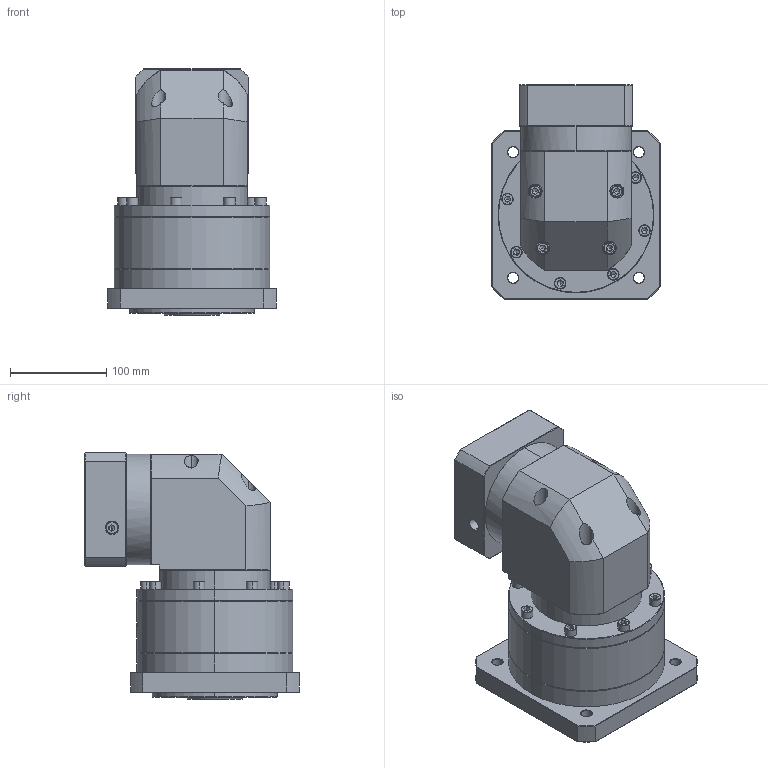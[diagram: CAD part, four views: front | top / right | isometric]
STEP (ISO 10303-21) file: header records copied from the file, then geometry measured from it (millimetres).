
FILE_DESCRIPTION (( 'STEP AP214' ), '1' );
FILE_NAME ('ZFR160A-K35-L2-P2-22-95-115-M8.step', '2023-09-03T09:44:04', ( '' ), ( '' ), 'SwSTEP 2.0', 'SolidWorks 2016', '' );
FILE_SCHEMA (( 'AUTOMOTIVE_DESIGN' ));
Length unit declared in the file: millimetre
Products named in the file (1): ZFR160A-K35-L2-P2-22-95-115-M8
Bounding box: 175 x 222.4 x 256.2 mm (x, y, z)
Volume: 4661823.6 mm3; surface area: 332886.4 mm2
Topology: 6 solids, 6 shells, 2414 faces, 6327 edges, 4039 vertices
Faces by surface type: plane 1139, cylinder 462, bspline 404, cone 365, torus 44
Entity records: 126545 total; most frequent: CARTESIAN_POINT 45663, ORIENTED_EDGE 12550, DIRECTION 9575, EDGE_CURVE 6275, VERTEX_POINT 4039, LINE 3381, VECTOR 3381, AXIS2_PLACEMENT_3D 3097
